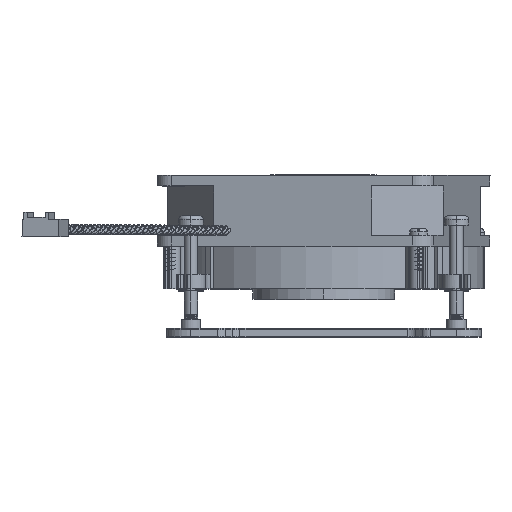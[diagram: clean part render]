
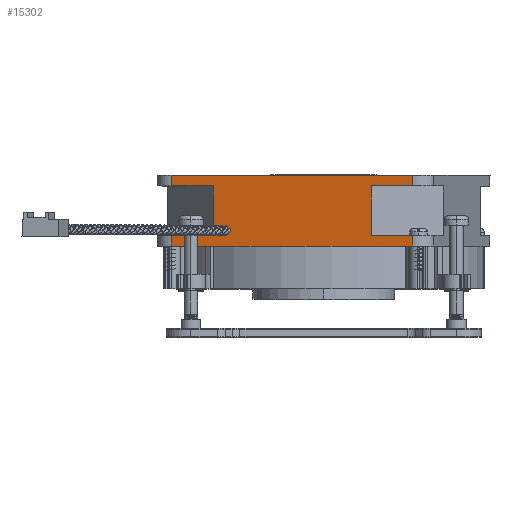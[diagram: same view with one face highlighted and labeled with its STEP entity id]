
A CAD part, top view. The second image highlights one B-rep face of the part: STEP entity #15302.
In plain terms, the highlighted planar face has unit normal (-0.225, 0, 0.974) as drawn and (0, 0, 1) by its records, which use the part's own axes.
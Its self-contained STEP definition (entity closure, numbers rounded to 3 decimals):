
#14096=DIRECTION('',(1.,0.,0.));
#14097=VECTOR('',#14096,12.353);
#14098=CARTESIAN_POINT('',(22.647,0.,40.));
#14099=LINE('',#14098,#14097);
#14123=DIRECTION('',(1.,0.,0.));
#14124=VECTOR('',#14123,70.);
#14125=CARTESIAN_POINT('',(-35.,3.,40.));
#14126=LINE('',#14125,#14124);
#14127=DIRECTION('',(-1.,0.,0.));
#14128=VECTOR('',#14127,70.);
#14129=CARTESIAN_POINT('',(35.,-17.,40.));
#14130=LINE('',#14129,#14128);
#14131=DIRECTION('',(0.,1.,0.));
#14132=VECTOR('',#14131,14.);
#14133=CARTESIAN_POINT('',(-23.094,-14.,40.));
#14134=LINE('',#14133,#14132);
#14144=DIRECTION('',(1.,0.,0.));
#14145=VECTOR('',#14144,11.906);
#14146=CARTESIAN_POINT('',(-35.,0.,40.));
#14147=LINE('',#14146,#14145);
#14330=DIRECTION('',(0.,-1.,0.));
#14331=VECTOR('',#14330,3.);
#14332=CARTESIAN_POINT('',(-35.,-14.,40.));
#14333=LINE('',#14332,#14331);
#14342=DIRECTION('',(-1.,0.,0.));
#14343=VECTOR('',#14342,11.906);
#14344=CARTESIAN_POINT('',(-23.094,-14.,40.));
#14345=LINE('',#14344,#14343);
#14381=DIRECTION('',(0.,1.,0.));
#14382=VECTOR('',#14381,3.);
#14383=CARTESIAN_POINT('',(35.,-17.,40.));
#14384=LINE('',#14383,#14382);
#14398=DIRECTION('',(-1.,0.,0.));
#14399=VECTOR('',#14398,12.353);
#14400=CARTESIAN_POINT('',(35.,-14.,40.));
#14401=LINE('',#14400,#14399);
#14412=DIRECTION('',(0.,1.,0.));
#14413=VECTOR('',#14412,14.);
#14414=CARTESIAN_POINT('',(22.647,-14.,40.));
#14415=LINE('',#14414,#14413);
#14763=DIRECTION('',(0.,-1.,0.));
#14764=VECTOR('',#14763,3.);
#14765=CARTESIAN_POINT('',(-35.,3.,40.));
#14766=LINE('',#14765,#14764);
#14775=DIRECTION('',(0.,1.,0.));
#14776=VECTOR('',#14775,3.);
#14777=CARTESIAN_POINT('',(35.,0.,40.));
#14778=LINE('',#14777,#14776);
#14805=CARTESIAN_POINT('',(35.,3.,40.));
#14806=VERTEX_POINT('',#14805);
#14807=CARTESIAN_POINT('',(-35.,3.,40.));
#14808=VERTEX_POINT('',#14807);
#14911=CARTESIAN_POINT('',(22.647,0.,40.));
#14912=CARTESIAN_POINT('',(35.,0.,40.));
#14913=VERTEX_POINT('',#14911);
#14914=VERTEX_POINT('',#14912);
#14919=CARTESIAN_POINT('',(-35.,0.,40.));
#14920=CARTESIAN_POINT('',(-23.094,0.,40.));
#14921=VERTEX_POINT('',#14919);
#14922=VERTEX_POINT('',#14920);
#14923=CARTESIAN_POINT('',(22.647,-14.,40.));
#14924=VERTEX_POINT('',#14923);
#14925=CARTESIAN_POINT('',(35.,-14.,40.));
#14926=VERTEX_POINT('',#14925);
#14927=CARTESIAN_POINT('',(35.,-17.,40.));
#14928=VERTEX_POINT('',#14927);
#14929=CARTESIAN_POINT('',(-35.,-17.,40.));
#14930=VERTEX_POINT('',#14929);
#14931=CARTESIAN_POINT('',(-35.,-14.,40.));
#14932=VERTEX_POINT('',#14931);
#14933=CARTESIAN_POINT('',(-23.094,-14.,40.));
#14934=VERTEX_POINT('',#14933);
#15273=CARTESIAN_POINT('',(-35.,3.,40.));
#15274=DIRECTION('',(0.,0.,-1.));
#15275=DIRECTION('',(-1.,0.,0.));
#15276=AXIS2_PLACEMENT_3D('',#15273,#15274,#15275);
#15277=PLANE('',#15276);
#15279=ORIENTED_EDGE('',*,*,#15278,.F.);
#15281=ORIENTED_EDGE('',*,*,#15280,.F.);
#15282=ORIENTED_EDGE('',*,*,#15090,.T.);
#15284=ORIENTED_EDGE('',*,*,#15283,.F.);
#15285=ORIENTED_EDGE('',*,*,#15257,.F.);
#15287=ORIENTED_EDGE('',*,*,#15286,.F.);
#15289=ORIENTED_EDGE('',*,*,#15288,.F.);
#15291=ORIENTED_EDGE('',*,*,#15290,.F.);
#15293=ORIENTED_EDGE('',*,*,#15292,.T.);
#15295=ORIENTED_EDGE('',*,*,#15294,.F.);
#15297=ORIENTED_EDGE('',*,*,#15296,.F.);
#15299=ORIENTED_EDGE('',*,*,#15298,.T.);
#15300=EDGE_LOOP('',(#15279,#15281,#15282,#15284,#15285,#15287,#15289,#15291,
#15293,#15295,#15297,#15299));
#15301=FACE_OUTER_BOUND('',#15300,.F.);
#15302=ADVANCED_FACE('',(#15301),#15277,.F.);
#15090=EDGE_CURVE('',#14808,#14806,#14126,.T.);
#15257=EDGE_CURVE('',#14913,#14914,#14099,.T.);
#15278=EDGE_CURVE('',#14921,#14922,#14147,.T.);
#15280=EDGE_CURVE('',#14808,#14921,#14766,.T.);
#15283=EDGE_CURVE('',#14914,#14806,#14778,.T.);
#15286=EDGE_CURVE('',#14924,#14913,#14415,.T.);
#15288=EDGE_CURVE('',#14926,#14924,#14401,.T.);
#15290=EDGE_CURVE('',#14928,#14926,#14384,.T.);
#15292=EDGE_CURVE('',#14928,#14930,#14130,.T.);
#15294=EDGE_CURVE('',#14932,#14930,#14333,.T.);
#15296=EDGE_CURVE('',#14934,#14932,#14345,.T.);
#15298=EDGE_CURVE('',#14934,#14922,#14134,.T.);
